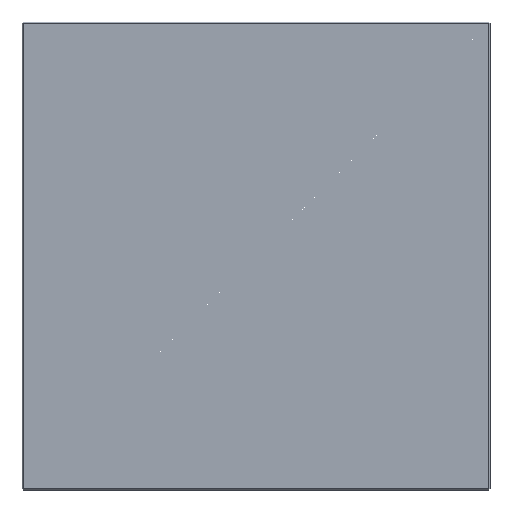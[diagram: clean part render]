
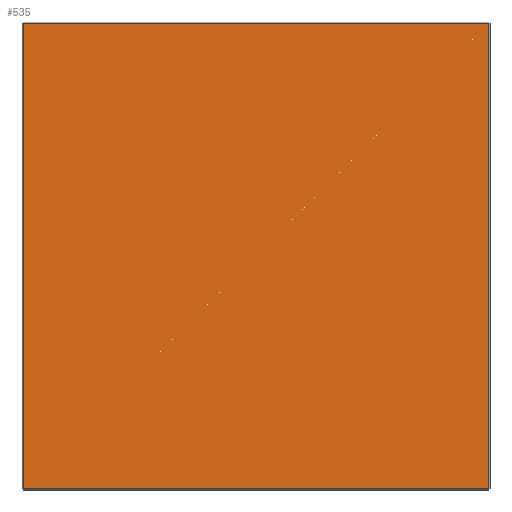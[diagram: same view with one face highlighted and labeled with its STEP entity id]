
A CAD part, front view. The second image highlights one B-rep face of the part: STEP entity #535.
In plain terms, the highlighted planar face has unit normal (0, -1, 0).
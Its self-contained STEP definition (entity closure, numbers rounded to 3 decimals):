
#94 = EDGE_CURVE ( 'NONE', #501, #362, #314, .T. ) ;
#125 = CARTESIAN_POINT ( 'NONE',  ( 0., 0., 0. ) ) ;
#163 = CARTESIAN_POINT ( 'NONE',  ( 172., 0., 172. ) ) ;
#166 = FACE_OUTER_BOUND ( 'NONE', #590, .T. ) ;
#218 = CARTESIAN_POINT ( 'NONE',  ( 172., 0., -172. ) ) ;
#227 = EDGE_CURVE ( 'NONE', #518, #508, #597, .T. ) ;
#228 = DIRECTION ( 'NONE',  ( 0., 0., 1. ) ) ;
#229 = DIRECTION ( 'NONE',  ( -1., 0., 0. ) ) ;
#234 = LINE ( 'NONE', #543, #304 ) ;
#237 = DIRECTION ( 'NONE',  ( 0., 0., -1. ) ) ;
#275 = EDGE_CURVE ( 'NONE', #362, #518, #287, .T. ) ;
#287 = LINE ( 'NONE', #389, #594 ) ;
#294 = ORIENTED_EDGE ( 'NONE', *, *, #554, .T. ) ;
#301 = DIRECTION ( 'NONE',  ( 1., 0., 0. ) ) ;
#304 = VECTOR ( 'NONE', #640, 1000. ) ;
#309 = ORIENTED_EDGE ( 'NONE', *, *, #227, .T. ) ;
#310 = ORIENTED_EDGE ( 'NONE', *, *, #94, .T. ) ;
#314 = LINE ( 'NONE', #551, #480 ) ;
#346 = AXIS2_PLACEMENT_3D ( 'NONE', #125, #415, #228 ) ;
#362 = VERTEX_POINT ( 'NONE', #517 ) ;
#389 = CARTESIAN_POINT ( 'NONE',  ( -172., 0., 0. ) ) ;
#390 = ORIENTED_EDGE ( 'NONE', *, *, #275, .T. ) ;
#394 = CARTESIAN_POINT ( 'NONE',  ( 0., 0., -172. ) ) ;
#412 = PLANE ( 'NONE',  #346 ) ;
#415 = DIRECTION ( 'NONE',  ( 0., 1., 0. ) ) ;
#432 = CARTESIAN_POINT ( 'NONE',  ( -172., 0., -172. ) ) ;
#480 = VECTOR ( 'NONE', #229, 1000. ) ;
#501 = VERTEX_POINT ( 'NONE', #163 ) ;
#508 = VERTEX_POINT ( 'NONE', #218 ) ;
#517 = CARTESIAN_POINT ( 'NONE',  ( -172., 0., 172. ) ) ;
#518 = VERTEX_POINT ( 'NONE', #432 ) ;
#535 = ADVANCED_FACE ( 'NONE', ( #166 ), #412, .F. ) ;
#543 = CARTESIAN_POINT ( 'NONE',  ( 172., 0., 0. ) ) ;
#551 = CARTESIAN_POINT ( 'NONE',  ( 0., 0., 172. ) ) ;
#554 = EDGE_CURVE ( 'NONE', #508, #501, #234, .T. ) ;
#580 = VECTOR ( 'NONE', #301, 1000. ) ;
#590 = EDGE_LOOP ( 'NONE', ( #294, #310, #390, #309 ) ) ;
#594 = VECTOR ( 'NONE', #237, 1000. ) ;
#597 = LINE ( 'NONE', #394, #580 ) ;
#640 = DIRECTION ( 'NONE',  ( 0., 0., 1. ) ) ;
